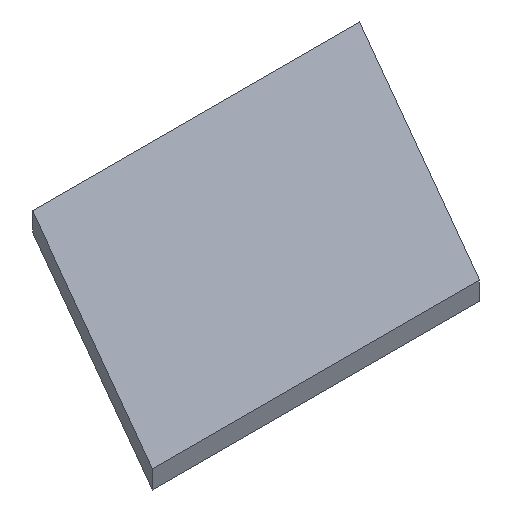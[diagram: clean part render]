
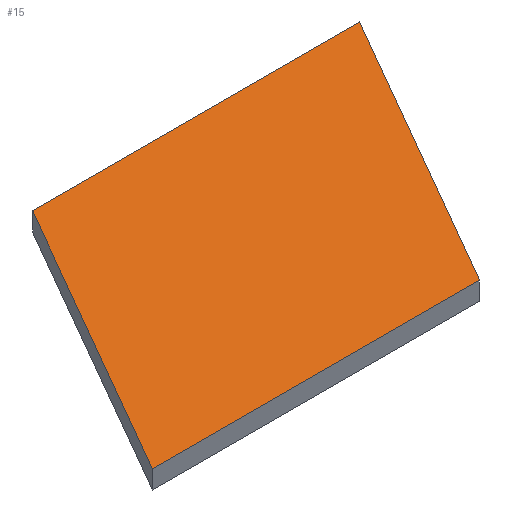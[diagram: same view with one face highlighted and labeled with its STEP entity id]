
A CAD part, isometric view. The second image highlights one B-rep face of the part: STEP entity #15.
In plain terms, the highlighted planar face has unit normal (0, 0, 1).
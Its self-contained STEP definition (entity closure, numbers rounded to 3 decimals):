
#15=ADVANCED_FACE('',(#21),#89,.T.);
#21=FACE_OUTER_BOUND('',#27,.T.);
#27=EDGE_LOOP('',(#33,#34,#35,#36));
#33=ORIENTED_EDGE('',*,*,#64,.T.);
#34=ORIENTED_EDGE('',*,*,#58,.T.);
#35=ORIENTED_EDGE('',*,*,#67,.T.);
#36=ORIENTED_EDGE('',*,*,#57,.T.);
#57=EDGE_CURVE('',#82,#81,#69,.T.);
#58=EDGE_CURVE('',#84,#83,#70,.T.);
#64=EDGE_CURVE('',#81,#84,#76,.T.);
#67=EDGE_CURVE('',#83,#82,#79,.T.);
#69=B_SPLINE_CURVE_WITH_KNOTS('',1,(#147,#148),.UNSPECIFIED.,.F.,.F.,(2,
2),(500.,750.),.UNSPECIFIED.);
#70=B_SPLINE_CURVE_WITH_KNOTS('',1,(#149,#150),.UNSPECIFIED.,.F.,.F.,(2,
2),(0.,250.),.UNSPECIFIED.);
#76=B_SPLINE_CURVE_WITH_KNOTS('',1,(#161,#162),.UNSPECIFIED.,.F.,.F.,(2,
2),(-1250.,-1000.),.UNSPECIFIED.);
#79=B_SPLINE_CURVE_WITH_KNOTS('',1,(#167,#168),.UNSPECIFIED.,.F.,.F.,(2,
2),(-750.,-500.),.UNSPECIFIED.);
#81=VERTEX_POINT('',#139);
#82=VERTEX_POINT('',#140);
#83=VERTEX_POINT('',#141);
#84=VERTEX_POINT('',#142);
#89=PLANE('',#115);
#115=AXIS2_PLACEMENT_3D('',#133,#124,$);
#124=DIRECTION('',(0.,0.,1.));
#133=CARTESIAN_POINT('',(-3.75,-2.165,14.));
#139=CARTESIAN_POINT('',(125.,216.506,14.));
#140=CARTESIAN_POINT('',(375.,216.506,14.));
#141=CARTESIAN_POINT('',(250.,0.,14.));
#142=CARTESIAN_POINT('',(0.,0.,14.));
#147=CARTESIAN_POINT('',(375.,216.506,14.));
#148=CARTESIAN_POINT('',(125.,216.506,14.));
#149=CARTESIAN_POINT('',(0.,0.,14.));
#150=CARTESIAN_POINT('',(250.,0.,14.));
#161=CARTESIAN_POINT('',(125.,216.506,14.));
#162=CARTESIAN_POINT('',(0.,0.,14.));
#167=CARTESIAN_POINT('',(250.,0.,14.));
#168=CARTESIAN_POINT('',(375.,216.506,14.));
